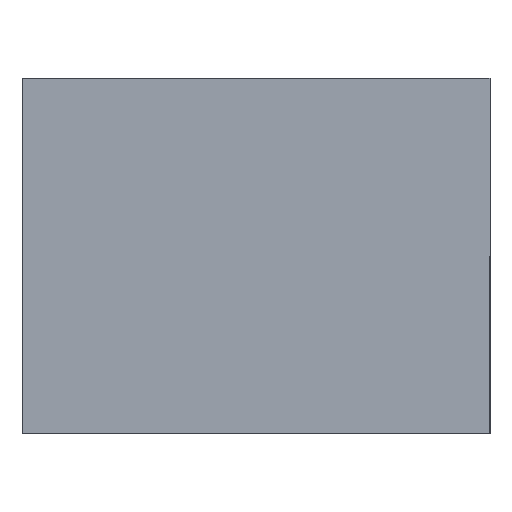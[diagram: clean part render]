
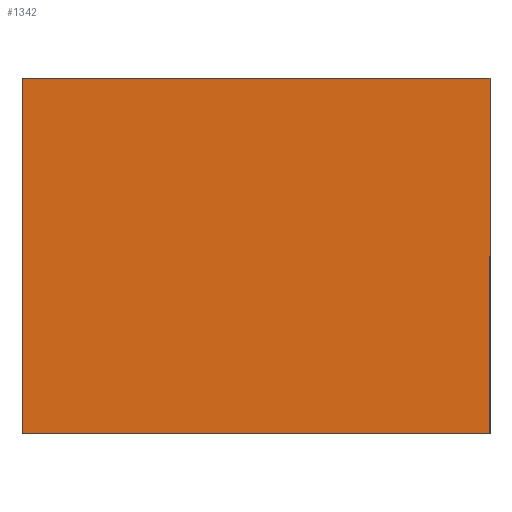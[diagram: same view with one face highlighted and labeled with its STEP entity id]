
A CAD part, front view. The second image highlights one B-rep face of the part: STEP entity #1342.
In plain terms, the highlighted planar face has unit normal (0, -1, 0).
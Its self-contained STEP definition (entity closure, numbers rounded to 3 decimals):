
#76 = CARTESIAN_POINT ( 'NONE',  ( -62.5, 0., 47.5 ) ) ;
#150 = FACE_OUTER_BOUND ( 'NONE', #2364, .T. ) ;
#234 = ORIENTED_EDGE ( 'NONE', *, *, #2370, .F. ) ;
#267 = VERTEX_POINT ( 'NONE', #1504 ) ;
#330 = VERTEX_POINT ( 'NONE', #727 ) ;
#487 = EDGE_CURVE ( 'NONE', #267, #2139, #1232, .T. ) ;
#507 = CARTESIAN_POINT ( 'NONE',  ( -62.5, 0., -47.5 ) ) ;
#522 = CARTESIAN_POINT ( 'NONE',  ( 62.5, 0., -47.5 ) ) ;
#527 = DIRECTION ( 'NONE',  ( 0., 0., -1. ) ) ;
#715 = VECTOR ( 'NONE', #1595, 1000. ) ;
#727 = CARTESIAN_POINT ( 'NONE',  ( 62.5, 0., 47.5 ) ) ;
#837 = PLANE ( 'NONE',  #2149 ) ;
#1029 = CARTESIAN_POINT ( 'NONE',  ( 0., 0., 0. ) ) ;
#1039 = VECTOR ( 'NONE', #1860, 1000. ) ;
#1155 = ORIENTED_EDGE ( 'NONE', *, *, #487, .F. ) ;
#1220 = DIRECTION ( 'NONE',  ( 0., 1., 0. ) ) ;
#1228 = CARTESIAN_POINT ( 'NONE',  ( -62.5, 0., -47.5 ) ) ;
#1232 = LINE ( 'NONE', #2182, #715 ) ;
#1340 = DIRECTION ( 'NONE',  ( 1., 0., 0. ) ) ;
#1342 = ADVANCED_FACE ( 'NONE', ( #150 ), #837, .F. ) ;
#1504 = CARTESIAN_POINT ( 'NONE',  ( 62.5, 0., -47.5 ) ) ;
#1506 = LINE ( 'NONE', #2341, #2484 ) ;
#1545 = VECTOR ( 'NONE', #527, 1000. ) ;
#1587 = EDGE_CURVE ( 'NONE', #330, #267, #2110, .T. ) ;
#1595 = DIRECTION ( 'NONE',  ( -1., 0., 0. ) ) ;
#1602 = EDGE_CURVE ( 'NONE', #2139, #2514, #1610, .T. ) ;
#1610 = LINE ( 'NONE', #507, #1039 ) ;
#1860 = DIRECTION ( 'NONE',  ( 0., 0., 1. ) ) ;
#2017 = ORIENTED_EDGE ( 'NONE', *, *, #1602, .F. ) ;
#2110 = LINE ( 'NONE', #522, #1545 ) ;
#2139 = VERTEX_POINT ( 'NONE', #1228 ) ;
#2149 = AXIS2_PLACEMENT_3D ( 'NONE', #1029, #1220, #2379 ) ;
#2182 = CARTESIAN_POINT ( 'NONE',  ( -62.5, 0., -47.5 ) ) ;
#2208 = ORIENTED_EDGE ( 'NONE', *, *, #1587, .F. ) ;
#2341 = CARTESIAN_POINT ( 'NONE',  ( -62.5, 0., 47.5 ) ) ;
#2364 = EDGE_LOOP ( 'NONE', ( #2208, #234, #2017, #1155 ) ) ;
#2370 = EDGE_CURVE ( 'NONE', #2514, #330, #1506, .T. ) ;
#2379 = DIRECTION ( 'NONE',  ( 0., 0., 1. ) ) ;
#2484 = VECTOR ( 'NONE', #1340, 1000. ) ;
#2514 = VERTEX_POINT ( 'NONE', #76 ) ;
